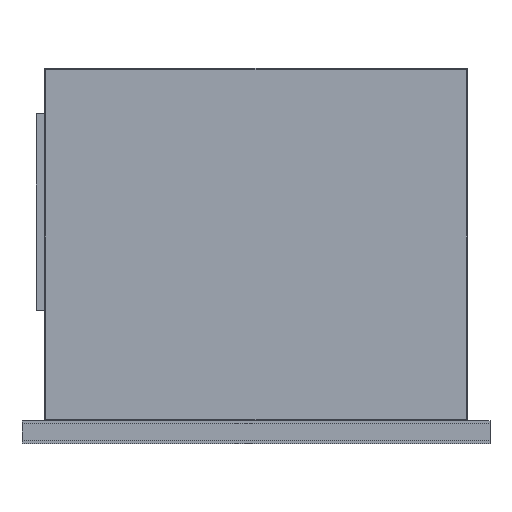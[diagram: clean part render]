
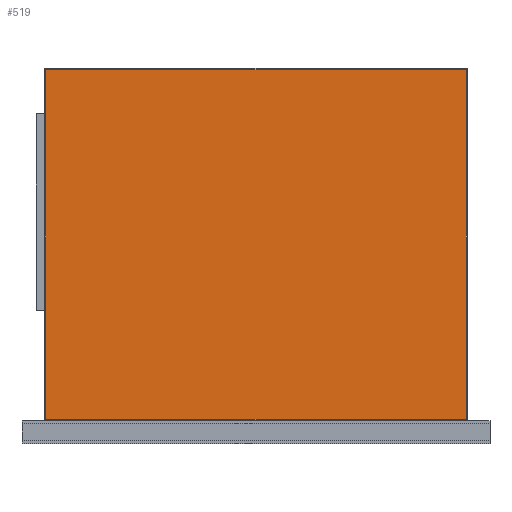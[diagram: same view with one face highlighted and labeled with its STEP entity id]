
A CAD part, top view. The second image highlights one B-rep face of the part: STEP entity #519.
In plain terms, the highlighted planar face has unit normal (0, 0, 1).
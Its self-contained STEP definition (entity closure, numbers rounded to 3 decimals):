
#519=ADVANCED_FACE('',(#1055),#1056,.F.);
#1055=FACE_OUTER_BOUND('',#1589,.T.);
#1056=PLANE('',#1590);
#1589=EDGE_LOOP('',(#3114,#3115,#3116,#3117));
#1590=AXIS2_PLACEMENT_3D('',#3118,#3119,#3120);
#3114=ORIENTED_EDGE('',*,*,#3721,.T.);
#3115=ORIENTED_EDGE('',*,*,#3761,.T.);
#3116=ORIENTED_EDGE('',*,*,#3743,.F.);
#3117=ORIENTED_EDGE('',*,*,#3768,.F.);
#3118=CARTESIAN_POINT('',(0.,0.0,425.0));
#3119=DIRECTION('',(0.,0.0,-1.0));
#3120=DIRECTION('',(-1.0,0.0,0.));
#3721=EDGE_CURVE('',#4589,#4593,#4595,.T.);
#3743=EDGE_CURVE('',#4627,#4621,#4629,.T.);
#3761=EDGE_CURVE('',#4593,#4621,#4649,.T.);
#3768=EDGE_CURVE('',#4589,#4627,#4656,.T.);
#4589=VERTEX_POINT('',#5752);
#4593=VERTEX_POINT('',#5756);
#4595=LINE('',#5758,#5759);
#4621=VERTEX_POINT('',#5788);
#4627=VERTEX_POINT('',#5795);
#4629=LINE('',#5797,#5798);
#4649=LINE('',#5822,#5823);
#4656=LINE('',#5833,#5834);
#5752=CARTESIAN_POINT('',(-745.0,-620.0,425.0));
#5756=CARTESIAN_POINT('',(745.0,-620.0,425.0));
#5758=CARTESIAN_POINT('',(0.,-620.0,425.0));
#5759=VECTOR('',#6514,1.0);
#5788=CARTESIAN_POINT('',(745.0,620.0,425.0));
#5795=CARTESIAN_POINT('',(-745.0,620.0,425.0));
#5797=CARTESIAN_POINT('',(0.,620.0,425.0));
#5798=VECTOR('',#6552,1.0);
#5822=CARTESIAN_POINT('',(745.0,0.,425.0));
#5823=VECTOR('',#6575,1.0);
#5833=CARTESIAN_POINT('',(-745.0,0.0,425.0));
#5834=VECTOR('',#6579,1.0);
#6514=DIRECTION('',(1.0,0.0,0.));
#6552=DIRECTION('',(1.0,0.0,0.));
#6575=DIRECTION('',(0.0,1.0,0.));
#6579=DIRECTION('',(0.,1.0,0.));
